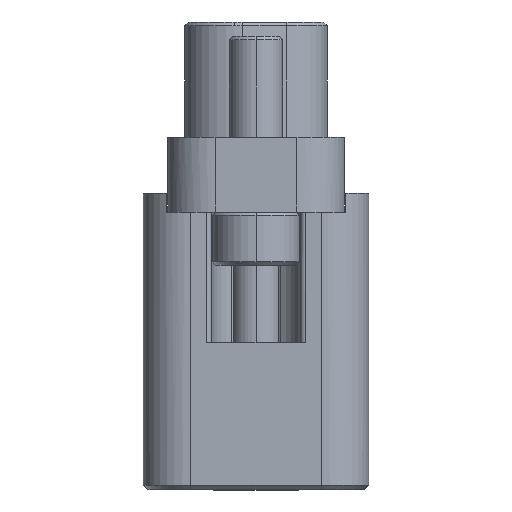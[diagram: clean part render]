
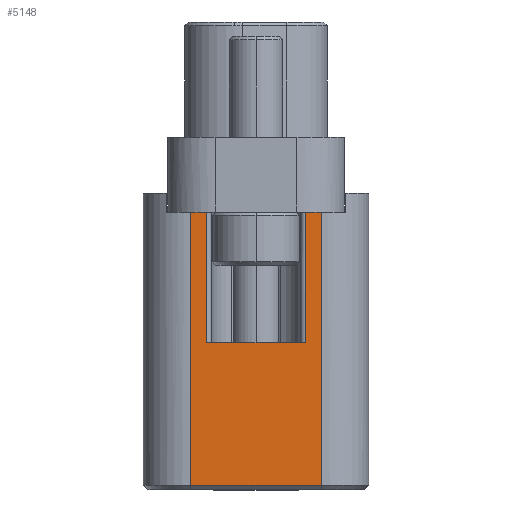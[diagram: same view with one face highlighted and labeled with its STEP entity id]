
A CAD part, left-side view. The second image highlights one B-rep face of the part: STEP entity #5148.
In plain terms, the highlighted planar face has unit normal (-1, 0, 0).
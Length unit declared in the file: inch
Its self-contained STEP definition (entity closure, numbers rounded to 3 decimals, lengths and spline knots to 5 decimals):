
#890 = EDGE_CURVE ( 'NONE', #2408, #2338, #4245, .T. ) ;
#918 = EDGE_CURVE ( 'NONE', #4689, #2404, #4290, .T. ) ;
#919 = EDGE_CURVE ( 'NONE', #2401, #4690, #4284, .T. ) ;
#920 = EDGE_CURVE ( 'NONE', #2415, #2401, #4293, .T. ) ;
#922 = EDGE_CURVE ( 'NONE', #2334, #2415, #4297, .T. ) ;
#931 = EDGE_CURVE ( 'NONE', #4689, #4690, #4308, .T. ) ;
#940 = EDGE_CURVE ( 'NONE', #2404, #2338, #4313, .T. ) ;
#947 = EDGE_CURVE ( 'NONE', #2334, #2408, #4334, .T. ) ;
#1258 = CARTESIAN_POINT ( 'NONE',  ( -0.797, 0.1375, -40. ) ) ;
#1259 = CARTESIAN_POINT ( 'NONE',  ( -0.797, 0.104, -40. ) ) ;
#1645 = CARTESIAN_POINT ( 'NONE',  ( -0.797, 0., -39.96 ) ) ;
#1649 = PLANE ( 'NONE',  #3634 ) ;
#1651 = DIRECTION ( 'NONE',  ( -1., 0., 0. ) ) ;
#1652 = DIRECTION ( 'NONE',  ( 0., -1., 0. ) ) ;
#2262 = DIRECTION ( 'NONE',  ( 0., -1., 0. ) ) ;
#2334 = VERTEX_POINT ( 'NONE', #3184 ) ;
#2338 = VERTEX_POINT ( 'NONE', #3182 ) ;
#2401 = VERTEX_POINT ( 'NONE', #3299 ) ;
#2404 = VERTEX_POINT ( 'NONE', #3158 ) ;
#2408 = VERTEX_POINT ( 'NONE', #3163 ) ;
#2415 = VERTEX_POINT ( 'NONE', #3168 ) ;
#2667 = EDGE_LOOP ( 'NONE', ( #4901, #4835, #4825, #4807, #4834, #4802, #2839, #4787 ) ) ;
#2839 = ORIENTED_EDGE ( 'NONE', *, *, #920, .T. ) ;
#3026 = DIRECTION ( 'NONE',  ( 0., 0., -1. ) ) ;
#3028 = CARTESIAN_POINT ( 'NONE',  ( -0.797, 0., -40. ) ) ;
#3034 = DIRECTION ( 'NONE',  ( 0., 0., 1. ) ) ;
#3036 = CARTESIAN_POINT ( 'NONE',  ( -0.797, 0., -40.275 ) ) ;
#3041 = DIRECTION ( 'NONE',  ( 0., 1., 0. ) ) ;
#3045 = DIRECTION ( 'NONE',  ( 0., -1., 0. ) ) ;
#3053 = DIRECTION ( 'NONE',  ( 0., 0., -1. ) ) ;
#3075 = CARTESIAN_POINT ( 'NONE',  ( -0.797, 0.1375, -39.96 ) ) ;
#3079 = CARTESIAN_POINT ( 'NONE',  ( -0.797, 0., -40.575 ) ) ;
#3082 = CARTESIAN_POINT ( 'NONE',  ( -0.797, 0., -40. ) ) ;
#3090 = DIRECTION ( 'NONE',  ( 0., 0., -1. ) ) ;
#3094 = CARTESIAN_POINT ( 'NONE',  ( -0.797, 0.104, -39.96 ) ) ;
#3112 = DIRECTION ( 'NONE',  ( 0., -1., 0. ) ) ;
#3133 = CARTESIAN_POINT ( 'NONE',  ( -0.797, -0.1375, -39.96 ) ) ;
#3135 = CARTESIAN_POINT ( 'NONE',  ( -0.797, -0.104, -39.96 ) ) ;
#3158 = CARTESIAN_POINT ( 'NONE',  ( -0.797, 0.1375, -40.575 ) ) ;
#3163 = CARTESIAN_POINT ( 'NONE',  ( -0.797, -0.1375, -40. ) ) ;
#3168 = CARTESIAN_POINT ( 'NONE',  ( -0.797, -0.104, -40.275 ) ) ;
#3182 = CARTESIAN_POINT ( 'NONE',  ( -0.797, -0.1375, -40.575 ) ) ;
#3184 = CARTESIAN_POINT ( 'NONE',  ( -0.797, -0.104, -40. ) ) ;
#3299 = CARTESIAN_POINT ( 'NONE',  ( -0.797, 0.104, -40.275 ) ) ;
#3634 = AXIS2_PLACEMENT_3D ( 'NONE', #1645, #1651, #1652 ) ;
#3852 = FACE_OUTER_BOUND ( 'NONE', #2667, .T. ) ;
#4245 = LINE ( 'NONE', #3133, #4249 ) ;
#4249 = VECTOR ( 'NONE', #3026, 39.37008 ) ;
#4284 = LINE ( 'NONE', #3094, #4294 ) ;
#4290 = LINE ( 'NONE', #3075, #4292 ) ;
#4292 = VECTOR ( 'NONE', #3090, 39.37008 ) ;
#4293 = LINE ( 'NONE', #3036, #4296 ) ;
#4294 = VECTOR ( 'NONE', #3034, 39.37008 ) ;
#4296 = VECTOR ( 'NONE', #3041, 39.37008 ) ;
#4297 = LINE ( 'NONE', #3135, #4299 ) ;
#4299 = VECTOR ( 'NONE', #3053, 39.37008 ) ;
#4308 = LINE ( 'NONE', #3082, #4311 ) ;
#4311 = VECTOR ( 'NONE', #3112, 39.37008 ) ;
#4313 = LINE ( 'NONE', #3079, #4326 ) ;
#4326 = VECTOR ( 'NONE', #3045, 39.37008 ) ;
#4334 = LINE ( 'NONE', #3028, #4336 ) ;
#4336 = VECTOR ( 'NONE', #2262, 39.37008 ) ;
#4689 = VERTEX_POINT ( 'NONE', #1258 ) ;
#4690 = VERTEX_POINT ( 'NONE', #1259 ) ;
#4787 = ORIENTED_EDGE ( 'NONE', *, *, #919, .T. ) ;
#4802 = ORIENTED_EDGE ( 'NONE', *, *, #922, .T. ) ;
#4807 = ORIENTED_EDGE ( 'NONE', *, *, #890, .F. ) ;
#4825 = ORIENTED_EDGE ( 'NONE', *, *, #940, .T. ) ;
#4834 = ORIENTED_EDGE ( 'NONE', *, *, #947, .F. ) ;
#4835 = ORIENTED_EDGE ( 'NONE', *, *, #918, .T. ) ;
#4901 = ORIENTED_EDGE ( 'NONE', *, *, #931, .F. ) ;
#5148 = ADVANCED_FACE ( 'NONE', ( #3852 ), #1649, .T. ) ;
